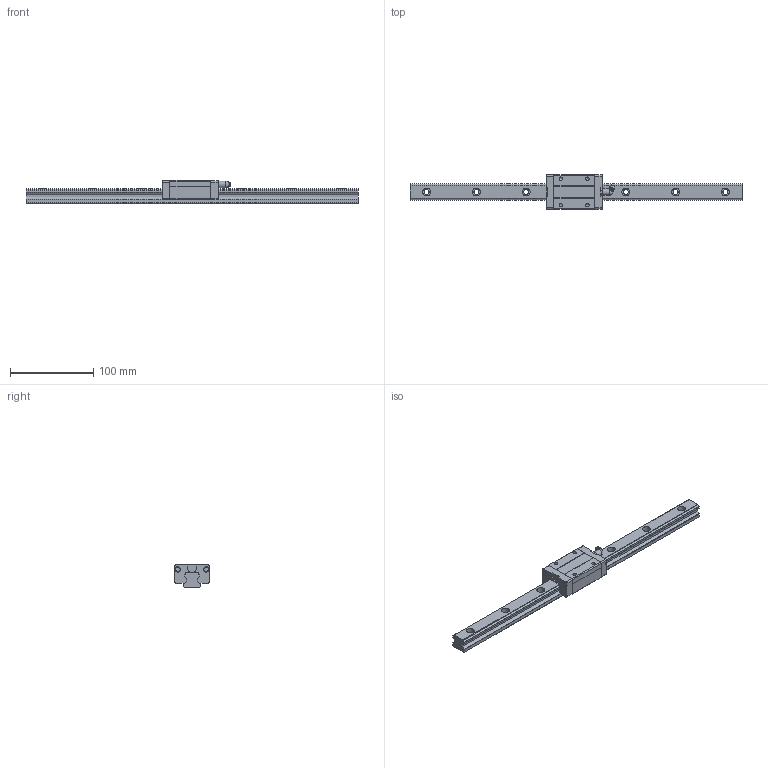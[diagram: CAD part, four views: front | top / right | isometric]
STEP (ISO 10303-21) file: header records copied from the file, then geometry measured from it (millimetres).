
FILE_DESCRIPTION((''),'2;1');
FILE_NAME('C:\Documents and Settings\土屋\My Documents\土屋移動用フォルダ\製品 (図面)\カタログ用3D\リニアガイド\LGS関連\LGS20.stp','2012-12-13T10:57:53',('y'),(''),'Autodesk Inventor 11','Autodesk Inventor 11','');
FILE_SCHEMA(('AUTOMOTIVE_DESIGN { 1 0 10303 214 1 1 1 1 }'));
Length unit declared in the file: millimetre
Products named in the file (3): LGS20(1); LGS20レール1
Assembly tree (2 placements, depth 2):
  LGS20(1)
    LGS20レール1
    LGS20(1)
Bounding box: 400 x 42 x 28 mm (x, y, z)
Volume: 163502.4 mm3; surface area: 47454.4 mm2
Topology: 2 solids, 2 shells, 162 faces, 425 edges, 280 vertices
Faces by surface type: plane 78, bspline 39, cylinder 38, cone 4, sphere 3
Full cylindrical faces by diameter (mm): 4.134 x2, 5.5 x2, 6.5 x2, 7 x1, 7.7 x1
Entity records: 5319 total; most frequent: CARTESIAN_POINT 1451, DIRECTION 760, ORIENTED_EDGE 754, EDGE_CURVE 377, VERTEX_POINT 273, AXIS2_PLACEMENT_3D 259, VECTOR 242, LINE 242
